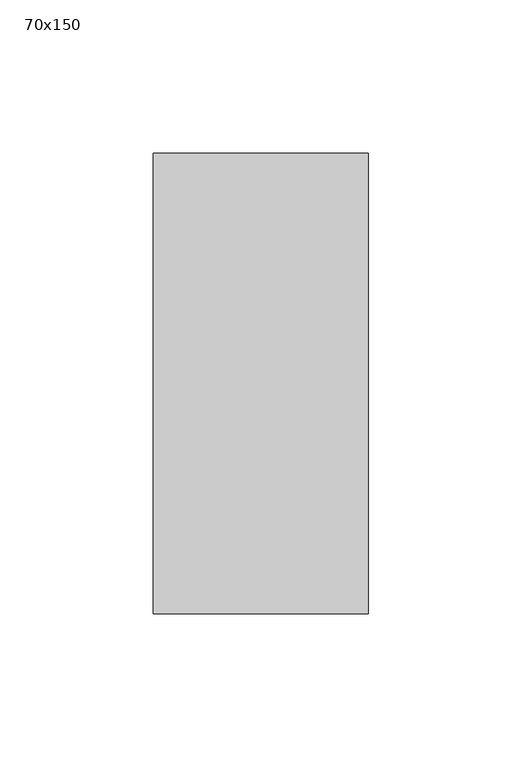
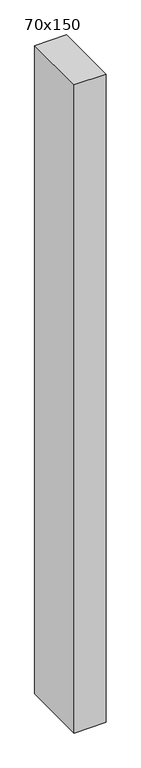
"""IFC4 building model written with IfcOpenShell, lengths in millimetres: member geometry, 長方形のマリオン : 70x150."""

from ifc_helpers import new_model, si_unit, frame, origin, place, context, project, spatial, polyline, outline, extrude, source, transform, mapped, element, save


def member_70x150_4e68411c(model_context):
    return source(origin(), model_context, "Body", "SweptSolid", [
        extrude(outline(polyline([(0.0, 75.0), (0.0, -75.0), (-70.0, -75.0), (-70.0, 75.0), (0.0, 75.0)])), frame((0.0, 0.0, -1500.0), z_axis=(0.0, 0.0, 1.0), x_axis=(1.0, 0.0, 0.0)), (0.0, 0.0, 1.0), 1500.0),
    ])


if __name__ == "__main__":
    model = new_model("IFC4")
    model_context = context("Model", 3, world=origin())
    ifc_project = project(units=[si_unit("LENGTHUNIT", "METRE", prefix="MILLI")], contexts=[model_context])
    site = spatial("IfcSite", under=ifc_project)
    building = spatial("IfcBuilding", under=site)
    placement = place(None, origin())
    member_70x150_shape = member_70x150_4e68411c(model_context)
    element("IfcMember", 1, ObjectType="長方形のマリオン : 70x150", at=placement, inside=building, context=model_context, shape_type="MappedRepresentation", body=[
        mapped(member_70x150_shape, transform((0.0, 0.0, 0.0), x_axis=(1.0, 0.0, 0.0), y_axis=(0.0, 1.0, 0.0), z_axis=(0.0, 0.0, 1.0))),
    ])
    save(model, "model.ifc")
